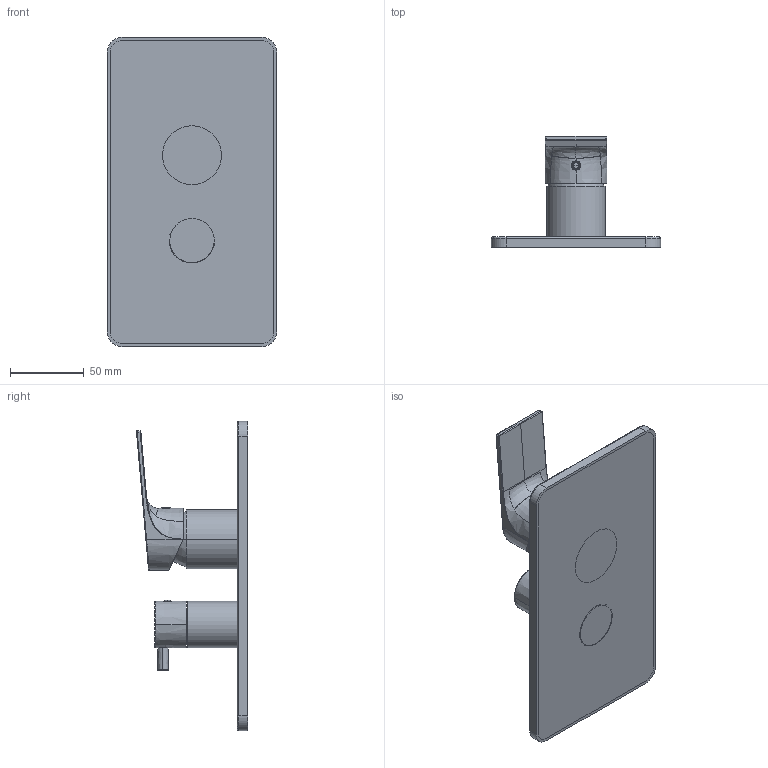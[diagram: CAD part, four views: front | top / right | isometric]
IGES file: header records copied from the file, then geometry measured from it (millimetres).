
Start section:  PTC IGES file: 78541A.igs
Global section: file name: 78541A.igs; native system: Creo Parametric by PTC Inc.; preprocessor: 2022014; author: carloff; organization: Unknown; date: 20240913.110021; units: millimetre
Bounding box: 115 x 75.47 x 210 mm (x, y, z)
Surface area: 125826.1 mm2 (no closed solid volume)
Topology: 0 solids, 0 shells, 306 faces, 1570 edges, 1566 vertices
Faces by surface type: bspline 164, revolution 140, extrusion 2
